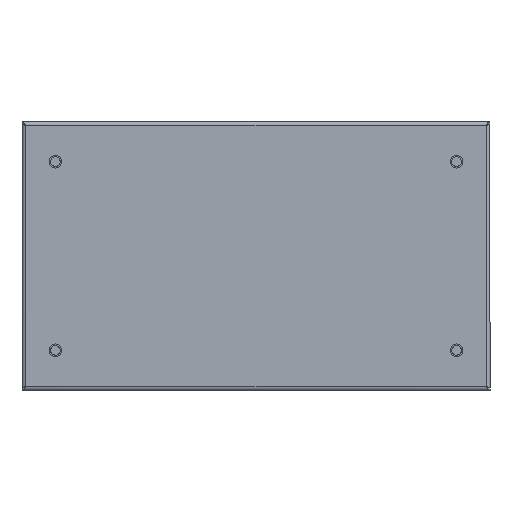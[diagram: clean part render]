
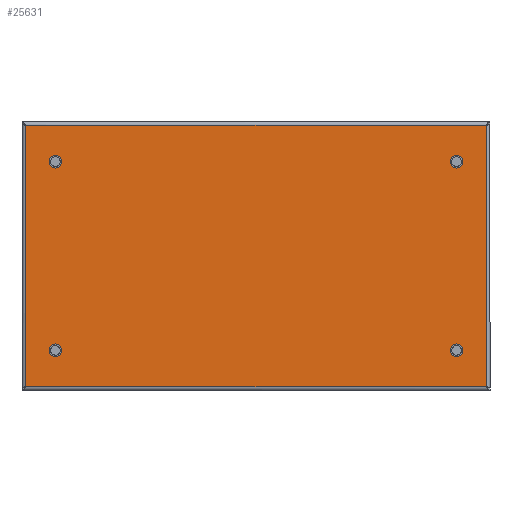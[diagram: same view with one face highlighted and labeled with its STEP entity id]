
A CAD part, front view. The second image highlights one B-rep face of the part: STEP entity #25631.
In plain terms, the highlighted planar face has unit normal (0, -1, 0) as drawn and (0, 0, 1) by its records, which use the part's own axes.
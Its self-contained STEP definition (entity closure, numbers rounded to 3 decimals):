
#24971=CARTESIAN_POINT(' ',(109.5,-51.5,0.));
#24976=DIRECTION(' ',(0.,0.,-1.));
#24981=DIRECTION(' ',(1.,0.,0.));
#24986=AXIS2_PLACEMENT_3D(' ',#24971,#24976,#24981);
#24991=CIRCLE('',#24986,3.5);
#24996=CARTESIAN_POINT(' ',(113.,-51.5,0.));
#24997=VERTEX_POINT(' ',#24996);
#25001=CARTESIAN_POINT(' ',(106.,-51.5,0.));
#25002=VERTEX_POINT(' ',#25001);
#25006=EDGE_CURVE(' ',#24997,#25002,#24991,.T.);
#25136=DIRECTION(' ',(-0.,-0.,1.));
#25141=CARTESIAN_POINT(' ',(125.65,-71.4,0.));
#25146=DIRECTION(' ',(0.,1.,0.));
#25151=AXIS2_PLACEMENT_3D(' ',#25141,#25136,#25146);
#25156=PLANE('NONE',#25151);
#25161=CARTESIAN_POINT(' ',(125.65,-71.4,0.));
#25166=DIRECTION(' ',(0.,1.,0.));
#25171=VECTOR(' ',#25166,1.);
#25176=LINE('',#25161,#25171);
#25181=CARTESIAN_POINT(' ',(125.65,-71.4,0.));
#25182=VERTEX_POINT(' ',#25181);
#25186=CARTESIAN_POINT(' ',(125.65,71.4,0.));
#25187=VERTEX_POINT(' ',#25186);
#25191=EDGE_CURVE(' ',#25182,#25187,#25176,.T.);
#25196=ORIENTED_EDGE(' ',*,*,#25191,.T.);
#25201=CARTESIAN_POINT(' ',(125.65,71.4,0.));
#25206=DIRECTION(' ',(-1.,0.,0.));
#25211=VECTOR(' ',#25206,1.);
#25216=LINE('',#25201,#25211);
#25221=CARTESIAN_POINT(' ',(-125.65,71.4,0.));
#25222=VERTEX_POINT(' ',#25221);
#25226=EDGE_CURVE(' ',#25187,#25222,#25216,.T.);
#25231=ORIENTED_EDGE(' ',*,*,#25226,.T.);
#25236=CARTESIAN_POINT(' ',(-125.65,71.4,0.));
#25241=DIRECTION(' ',(0.,-1.,0.));
#25246=VECTOR(' ',#25241,1.);
#25251=LINE('',#25236,#25246);
#25256=CARTESIAN_POINT(' ',(-125.65,-71.4,0.));
#25257=VERTEX_POINT(' ',#25256);
#25261=EDGE_CURVE(' ',#25222,#25257,#25251,.T.);
#25266=ORIENTED_EDGE(' ',*,*,#25261,.T.);
#25271=CARTESIAN_POINT(' ',(-125.65,-71.4,0.));
#25276=DIRECTION(' ',(1.,0.,0.));
#25281=VECTOR(' ',#25276,1.);
#25286=LINE('',#25271,#25281);
#25291=EDGE_CURVE(' ',#25257,#25182,#25286,.T.);
#25296=ORIENTED_EDGE(' ',*,*,#25291,.T.);
#25301=EDGE_LOOP(' ',(#25196,#25231,#25266,#25296));
#25306=FACE_OUTER_BOUND(' ',#25301,.T.);
#25311=CARTESIAN_POINT(' ',(109.5,-51.5,0.));
#25316=DIRECTION(' ',(0.,-0.,-1.));
#25321=DIRECTION(' ',(-1.,0.,0.));
#25326=AXIS2_PLACEMENT_3D(' ',#25311,#25316,#25321);
#25331=CIRCLE('',#25326,3.5);
#25336=EDGE_CURVE(' ',#25002,#24997,#25331,.T.);
#25341=ORIENTED_EDGE(' ',*,*,#25336,.T.);
#25346=ORIENTED_EDGE(' ',*,*,#25006,.T.);
#25351=EDGE_LOOP(' ',(#25341,#25346));
#25356=FACE_BOUND(' ',#25351,.T.);
#25361=CARTESIAN_POINT(' ',(-109.5,-51.5,0.));
#25366=DIRECTION(' ',(0.,-0.,-1.));
#25371=DIRECTION(' ',(-1.,0.,0.));
#25376=AXIS2_PLACEMENT_3D(' ',#25361,#25366,#25371);
#25381=CIRCLE('',#25376,3.5);
#25386=CARTESIAN_POINT(' ',(-113.,-51.5,0.));
#25387=VERTEX_POINT(' ',#25386);
#25391=CARTESIAN_POINT(' ',(-106.,-51.5,0.));
#25392=VERTEX_POINT(' ',#25391);
#25396=EDGE_CURVE(' ',#25387,#25392,#25381,.T.);
#25401=ORIENTED_EDGE(' ',*,*,#25396,.T.);
#25406=CARTESIAN_POINT(' ',(-109.5,-51.5,0.));
#25411=DIRECTION(' ',(0.,0.,-1.));
#25416=DIRECTION(' ',(1.,0.,0.));
#25421=AXIS2_PLACEMENT_3D(' ',#25406,#25411,#25416);
#25426=CIRCLE('',#25421,3.5);
#25431=EDGE_CURVE(' ',#25392,#25387,#25426,.T.);
#25436=ORIENTED_EDGE(' ',*,*,#25431,.T.);
#25441=EDGE_LOOP(' ',(#25401,#25436));
#25446=FACE_BOUND(' ',#25441,.T.);
#25451=CARTESIAN_POINT(' ',(109.5,51.5,0.));
#25456=DIRECTION(' ',(0.,-0.,-1.));
#25461=DIRECTION(' ',(-1.,0.,0.));
#25466=AXIS2_PLACEMENT_3D(' ',#25451,#25456,#25461);
#25471=CIRCLE('',#25466,3.5);
#25476=CARTESIAN_POINT(' ',(106.,51.5,0.));
#25477=VERTEX_POINT(' ',#25476);
#25481=CARTESIAN_POINT(' ',(113.,51.5,0.));
#25482=VERTEX_POINT(' ',#25481);
#25486=EDGE_CURVE(' ',#25477,#25482,#25471,.T.);
#25491=ORIENTED_EDGE(' ',*,*,#25486,.T.);
#25496=CARTESIAN_POINT(' ',(109.5,51.5,0.));
#25501=DIRECTION(' ',(0.,0.,-1.));
#25506=DIRECTION(' ',(1.,0.,0.));
#25511=AXIS2_PLACEMENT_3D(' ',#25496,#25501,#25506);
#25516=CIRCLE('',#25511,3.5);
#25521=EDGE_CURVE(' ',#25482,#25477,#25516,.T.);
#25526=ORIENTED_EDGE(' ',*,*,#25521,.T.);
#25531=EDGE_LOOP(' ',(#25491,#25526));
#25536=FACE_BOUND(' ',#25531,.T.);
#25541=CARTESIAN_POINT(' ',(-109.5,51.5,0.));
#25546=DIRECTION(' ',(0.,-0.,-1.));
#25551=DIRECTION(' ',(-1.,0.,0.));
#25556=AXIS2_PLACEMENT_3D(' ',#25541,#25546,#25551);
#25561=CIRCLE('',#25556,3.5);
#25566=CARTESIAN_POINT(' ',(-113.,51.5,0.));
#25567=VERTEX_POINT(' ',#25566);
#25571=CARTESIAN_POINT(' ',(-106.,51.5,0.));
#25572=VERTEX_POINT(' ',#25571);
#25576=EDGE_CURVE(' ',#25567,#25572,#25561,.T.);
#25581=ORIENTED_EDGE(' ',*,*,#25576,.T.);
#25586=CARTESIAN_POINT(' ',(-109.5,51.5,0.));
#25591=DIRECTION(' ',(0.,0.,-1.));
#25596=DIRECTION(' ',(1.,0.,0.));
#25601=AXIS2_PLACEMENT_3D(' ',#25586,#25591,#25596);
#25606=CIRCLE('',#25601,3.5);
#25611=EDGE_CURVE(' ',#25572,#25567,#25606,.T.);
#25616=ORIENTED_EDGE(' ',*,*,#25611,.T.);
#25621=EDGE_LOOP(' ',(#25581,#25616));
#25626=FACE_BOUND(' ',#25621,.T.);
#25631=ADVANCED_FACE('NONE',(#25306,#25356,#25446,#25536,#25626),#25156,.T.);
